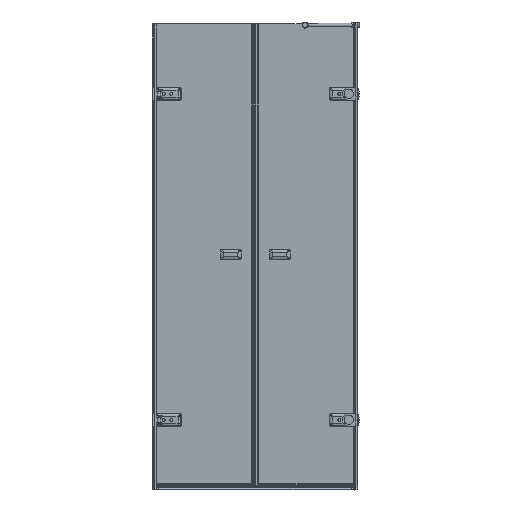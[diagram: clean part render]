
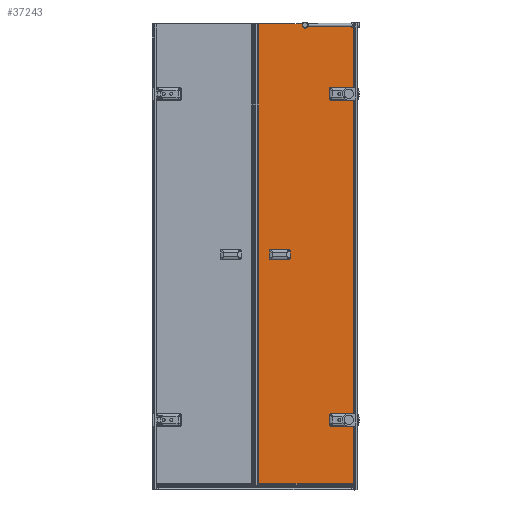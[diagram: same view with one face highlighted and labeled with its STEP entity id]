
A CAD part, left-side view. The second image highlights one B-rep face of the part: STEP entity #37243.
In plain terms, the highlighted planar face has unit normal (-1, 0, 0).
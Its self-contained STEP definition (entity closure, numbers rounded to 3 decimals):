
#319=FACE_BOUND($,#5755,.T.);
#320=FACE_BOUND($,#5756,.T.);
#321=FACE_BOUND($,#5757,.T.);
#1855=PLANE($,#40277);
#5755=EDGE_LOOP($,(#30109));
#5756=EDGE_LOOP($,(#30110));
#5757=EDGE_LOOP($,(#30111,#30112,#30113,#30114,#30115,#30116,#30117,#30118,
#30119,#30120,#30121,#30122,#30123,#30124,#30125,#30126));
#6845=CIRCLE($,#38723,6.5);
#7053=CIRCLE($,#39262,6.5);
#7453=CIRCLE($,#40278,10.);
#7454=CIRCLE($,#40279,10.);
#7455=CIRCLE($,#40280,10.);
#7456=CIRCLE($,#40281,10.);
#8517=LINE($,#70771,#11856);
#8565=LINE($,#70882,#11904);
#9155=LINE($,#73350,#12494);
#10088=LINE($,#77129,#13427);
#10106=LINE($,#77172,#13445);
#10109=LINE($,#77180,#13448);
#10110=LINE($,#77183,#13449);
#10111=LINE($,#77185,#13450);
#10112=LINE($,#77186,#13451);
#10113=LINE($,#77188,#13452);
#10114=LINE($,#77192,#13453);
#10115=LINE($,#77195,#13454);
#11856=VECTOR($,#43960,261.);
#11904=VECTOR($,#44056,1362.);
#12494=VECTOR($,#45684,281.);
#13427=VECTOR($,#48203,406.7);
#13445=VECTOR($,#48251,27.3);
#13448=VECTOR($,#48260,18.);
#13449=VECTOR($,#48263,27.3);
#13450=VECTOR($,#48264,1980.);
#13451=VECTOR($,#48265,406.7);
#13452=VECTOR($,#48266,27.3);
#13453=VECTOR($,#48269,18.);
#13454=VECTOR($,#48272,27.3);
#15265=VERTEX_POINT($,#69798);
#15458=VERTEX_POINT($,#70768);
#15459=VERTEX_POINT($,#70770);
#15497=VERTEX_POINT($,#70879);
#15498=VERTEX_POINT($,#70881);
#15872=VERTEX_POINT($,#72365);
#16064=VERTEX_POINT($,#73347);
#16065=VERTEX_POINT($,#73349);
#16967=VERTEX_POINT($,#77118);
#16981=VERTEX_POINT($,#77170);
#16982=VERTEX_POINT($,#77177);
#16983=VERTEX_POINT($,#77179);
#16984=VERTEX_POINT($,#77181);
#16985=VERTEX_POINT($,#77184);
#16986=VERTEX_POINT($,#77187);
#16987=VERTEX_POINT($,#77189);
#16988=VERTEX_POINT($,#77191);
#16989=VERTEX_POINT($,#77193);
#18934=EDGE_CURVE($,#15265,#15265,#6845,.T.);
#19240=EDGE_CURVE($,#15459,#15458,#8517,.T.);
#19297=EDGE_CURVE($,#15498,#15497,#8565,.T.);
#19851=EDGE_CURVE($,#15872,#15872,#7053,.T.);
#20166=EDGE_CURVE($,#16065,#16064,#9155,.T.);
#21520=EDGE_CURVE($,#16967,#16064,#10088,.T.);
#21542=EDGE_CURVE($,#15497,#16981,#10106,.T.);
#21545=EDGE_CURVE($,#16982,#16981,#7453,.T.);
#21546=EDGE_CURVE($,#16982,#16983,#10109,.T.);
#21547=EDGE_CURVE($,#16984,#16983,#7454,.T.);
#21548=EDGE_CURVE($,#16984,#16065,#10110,.T.);
#21549=EDGE_CURVE($,#16985,#16967,#10111,.T.);
#21550=EDGE_CURVE($,#16985,#15459,#10112,.T.);
#21551=EDGE_CURVE($,#15458,#16986,#10113,.T.);
#21552=EDGE_CURVE($,#16987,#16986,#7455,.T.);
#21553=EDGE_CURVE($,#16987,#16988,#10114,.T.);
#21554=EDGE_CURVE($,#16989,#16988,#7456,.T.);
#21555=EDGE_CURVE($,#16989,#15498,#10115,.T.);
#30109=ORIENTED_EDGE($,*,*,#18934,.T.);
#30110=ORIENTED_EDGE($,*,*,#19851,.T.);
#30111=ORIENTED_EDGE($,*,*,#19297,.T.);
#30112=ORIENTED_EDGE($,*,*,#21542,.T.);
#30113=ORIENTED_EDGE($,*,*,#21545,.F.);
#30114=ORIENTED_EDGE($,*,*,#21546,.T.);
#30115=ORIENTED_EDGE($,*,*,#21547,.F.);
#30116=ORIENTED_EDGE($,*,*,#21548,.T.);
#30117=ORIENTED_EDGE($,*,*,#20166,.T.);
#30118=ORIENTED_EDGE($,*,*,#21520,.F.);
#30119=ORIENTED_EDGE($,*,*,#21549,.F.);
#30120=ORIENTED_EDGE($,*,*,#21550,.T.);
#30121=ORIENTED_EDGE($,*,*,#19240,.T.);
#30122=ORIENTED_EDGE($,*,*,#21551,.T.);
#30123=ORIENTED_EDGE($,*,*,#21552,.F.);
#30124=ORIENTED_EDGE($,*,*,#21553,.T.);
#30125=ORIENTED_EDGE($,*,*,#21554,.F.);
#30126=ORIENTED_EDGE($,*,*,#21555,.T.);
#37243=ADVANCED_FACE($,(#319,#320,#321),#1855,.T.);
#38723=AXIS2_PLACEMENT_3D($,#69799,#43366,#43367);
#39262=AXIS2_PLACEMENT_3D($,#72366,#45067,#45068);
#40277=AXIS2_PLACEMENT_3D($,#77176,#48256,#48257);
#40278=AXIS2_PLACEMENT_3D($,#77178,#48258,#48259);
#40279=AXIS2_PLACEMENT_3D($,#77182,#48261,#48262);
#40280=AXIS2_PLACEMENT_3D($,#77190,#48267,#48268);
#40281=AXIS2_PLACEMENT_3D($,#77194,#48270,#48271);
#43366=DIRECTION('center_axis',(1.,0.,0.));
#43367=DIRECTION('ref_axis',(0.,-1.,0.));
#43960=DIRECTION($,(0.,0.,1.));
#44056=DIRECTION($,(0.,0.,1.));
#45067=DIRECTION('center_axis',(1.,0.,0.));
#45068=DIRECTION('ref_axis',(0.,-1.,0.));
#45684=DIRECTION($,(0.,0.,1.));
#48203=DIRECTION($,(0.,-1.,0.));
#48251=DIRECTION($,(0.,1.,0.));
#48256=DIRECTION('center_axis',(-1.,0.,0.));
#48257=DIRECTION('ref_axis',(0.,-1.,0.));
#48258=DIRECTION('center_axis',(-1.,0.,0.));
#48259=DIRECTION('ref_axis',(0.,0.707,-0.707));
#48260=DIRECTION($,(0.,0.,1.));
#48261=DIRECTION('center_axis',(-1.,0.,0.));
#48262=DIRECTION('ref_axis',(0.,0.707,0.707));
#48263=DIRECTION($,(0.,-1.,0.));
#48264=DIRECTION($,(0.,0.,1.));
#48265=DIRECTION($,(0.,-1.,0.));
#48266=DIRECTION($,(0.,1.,0.));
#48267=DIRECTION('center_axis',(-1.,0.,0.));
#48268=DIRECTION('ref_axis',(0.,0.707,-0.707));
#48269=DIRECTION($,(0.,0.,1.));
#48270=DIRECTION('center_axis',(-1.,0.,0.));
#48271=DIRECTION('ref_axis',(0.,0.707,0.707));
#48272=DIRECTION($,(0.,-1.,0.));
#69798=CARTESIAN_POINT('',(1239.697,48.134,-214.056));
#69799=CARTESIAN_POINT('Origin',(1239.697,41.634,-214.056));
#70768=CARTESIAN_POINT('',(1239.697,-18.666,-233.056));
#70770=CARTESIAN_POINT('',(1239.697,-18.666,-494.056));
#70771=CARTESIAN_POINT($,(1239.697,-18.666,-504.056));
#70879=CARTESIAN_POINT('',(1239.697,-18.666,1166.944));
#70881=CARTESIAN_POINT('',(1239.697,-18.666,-195.056));
#70882=CARTESIAN_POINT($,(1239.697,-18.666,-349.056));
#72365=CARTESIAN_POINT('',(1239.697,48.134,1185.944));
#72366=CARTESIAN_POINT('Origin',(1239.697,41.634,1185.944));
#73347=CARTESIAN_POINT('',(1239.697,-18.666,1485.944));
#73349=CARTESIAN_POINT('',(1239.697,-18.666,1204.944));
#73350=CARTESIAN_POINT($,(1239.697,-18.666,350.944));
#77118=CARTESIAN_POINT('',(1239.697,388.034,1485.944));
#77129=CARTESIAN_POINT($,(1239.697,392.634,1485.944));
#77170=CARTESIAN_POINT('',(1239.697,8.634,1166.944));
#77172=CARTESIAN_POINT($,(1239.697,205.634,1166.944));
#77176=CARTESIAN_POINT('Origin',(1239.697,392.634,-494.056));
#77177=CARTESIAN_POINT('',(1239.697,18.634,1176.944));
#77178=CARTESIAN_POINT('Origin',(1239.697,8.634,1176.944));
#77179=CARTESIAN_POINT('',(1239.697,18.634,1194.944));
#77180=CARTESIAN_POINT($,(1239.697,18.634,355.444));
#77181=CARTESIAN_POINT('',(1239.697,8.634,1204.944));
#77182=CARTESIAN_POINT('Origin',(1239.697,8.634,1194.944));
#77183=CARTESIAN_POINT($,(1239.697,184.634,1204.944));
#77184=CARTESIAN_POINT('',(1239.697,388.034,-494.056));
#77185=CARTESIAN_POINT($,(1239.697,388.034,-494.056));
#77186=CARTESIAN_POINT($,(1239.697,392.634,-494.056));
#77187=CARTESIAN_POINT('',(1239.697,8.634,-233.056));
#77188=CARTESIAN_POINT($,(1239.697,205.634,-233.056));
#77189=CARTESIAN_POINT('',(1239.697,18.634,-223.056));
#77190=CARTESIAN_POINT('Origin',(1239.697,8.634,-223.056));
#77191=CARTESIAN_POINT('',(1239.697,18.634,-205.056));
#77192=CARTESIAN_POINT($,(1239.697,18.634,-344.556));
#77193=CARTESIAN_POINT('',(1239.697,8.634,-195.056));
#77194=CARTESIAN_POINT('Origin',(1239.697,8.634,-205.056));
#77195=CARTESIAN_POINT($,(1239.697,184.634,-195.056));
